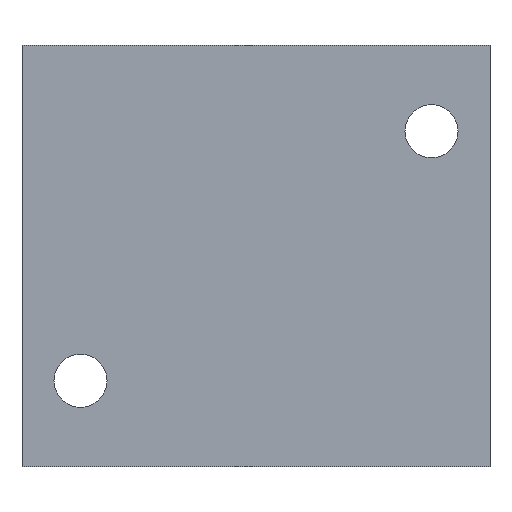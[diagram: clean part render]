
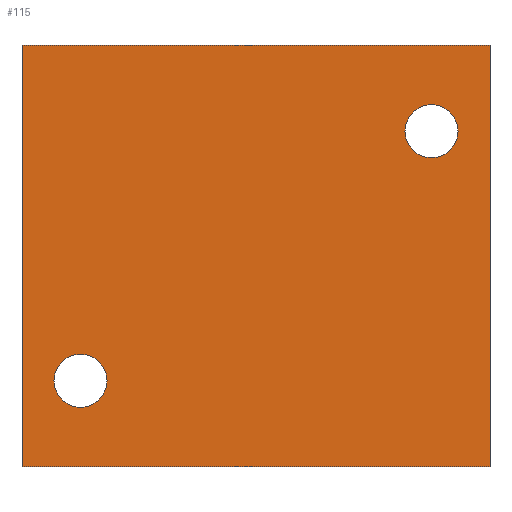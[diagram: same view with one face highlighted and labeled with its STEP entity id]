
A CAD part, front view. The second image highlights one B-rep face of the part: STEP entity #115.
In plain terms, the highlighted planar face has unit normal (0, -1, 0).
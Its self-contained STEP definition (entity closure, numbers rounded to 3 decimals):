
#28 = CARTESIAN_POINT ( 'NONE',  ( 22.5, -21., 19.4 ) ) ;
#40 = EDGE_LOOP ( 'NONE', ( #995, #718 ) ) ;
#46 = DIRECTION ( 'NONE',  ( 0., 0., -1. ) ) ;
#70 = EDGE_CURVE ( 'NONE', #942, #915, #616, .T. ) ;
#92 = ORIENTED_EDGE ( 'NONE', *, *, #70, .T. ) ;
#115 = ADVANCED_FACE ( 'NONE', ( #735, #1123, #485 ), #1452, .F. ) ;
#123 = CARTESIAN_POINT ( 'NONE',  ( -30., -21., 27. ) ) ;
#140 = CARTESIAN_POINT ( 'NONE',  ( 22.5, -21., 16. ) ) ;
#144 = EDGE_CURVE ( 'NONE', #915, #1549, #1399, .T. ) ;
#165 = EDGE_CURVE ( 'NONE', #983, #1301, #472, .T. ) ;
#176 = DIRECTION ( 'NONE',  ( 1., 0., 0. ) ) ;
#180 = VECTOR ( 'NONE', #176, 1000. ) ;
#188 = VECTOR ( 'NONE', #1275, 1000. ) ;
#220 = CARTESIAN_POINT ( 'NONE',  ( -22.5, -21., -16. ) ) ;
#270 = EDGE_CURVE ( 'NONE', #942, #1350, #455, .T. ) ;
#309 = DIRECTION ( 'NONE',  ( 0., 0., -1. ) ) ;
#363 = CARTESIAN_POINT ( 'NONE',  ( -30., -21., 27. ) ) ;
#381 = DIRECTION ( 'NONE',  ( 0., 0., -1. ) ) ;
#394 = CARTESIAN_POINT ( 'NONE',  ( -30., -21., -27. ) ) ;
#426 = ORIENTED_EDGE ( 'NONE', *, *, #144, .T. ) ;
#455 = LINE ( 'NONE', #1299, #921 ) ;
#472 = CIRCLE ( 'NONE', #1565, 3.4 ) ;
#485 = FACE_OUTER_BOUND ( 'NONE', #945, .T. ) ;
#524 = CARTESIAN_POINT ( 'NONE',  ( 30., -21., -27. ) ) ;
#539 = AXIS2_PLACEMENT_3D ( 'NONE', #220, #1171, #1425 ) ;
#546 = VERTEX_POINT ( 'NONE', #681 ) ;
#606 = EDGE_CURVE ( 'NONE', #659, #546, #1564, .T. ) ;
#616 = LINE ( 'NONE', #363, #956 ) ;
#638 = DIRECTION ( 'NONE',  ( 0., -1., 0. ) ) ;
#659 = VERTEX_POINT ( 'NONE', #1081 ) ;
#681 = CARTESIAN_POINT ( 'NONE',  ( -22.5, -21., -19.4 ) ) ;
#687 = CARTESIAN_POINT ( 'NONE',  ( 30., -21., 27. ) ) ;
#710 = EDGE_LOOP ( 'NONE', ( #1243, #1206 ) ) ;
#718 = ORIENTED_EDGE ( 'NONE', *, *, #606, .F. ) ;
#731 = DIRECTION ( 'NONE',  ( 0., 0., 1. ) ) ;
#735 = FACE_BOUND ( 'NONE', #710, .T. ) ;
#756 = EDGE_CURVE ( 'NONE', #1350, #1549, #816, .T. ) ;
#816 = LINE ( 'NONE', #687, #188 ) ;
#833 = DIRECTION ( 'NONE',  ( 0., -1., 0. ) ) ;
#847 = CARTESIAN_POINT ( 'NONE',  ( -30., -21., 27. ) ) ;
#869 = AXIS2_PLACEMENT_3D ( 'NONE', #140, #1487, #46 ) ;
#910 = CARTESIAN_POINT ( 'NONE',  ( 22.5, -21., 16. ) ) ;
#915 = VERTEX_POINT ( 'NONE', #1197 ) ;
#921 = VECTOR ( 'NONE', #1050, 1000. ) ;
#942 = VERTEX_POINT ( 'NONE', #123 ) ;
#945 = EDGE_LOOP ( 'NONE', ( #426, #1218, #1134, #92 ) ) ;
#956 = VECTOR ( 'NONE', #381, 1000. ) ;
#968 = CARTESIAN_POINT ( 'NONE',  ( 22.5, -21., 12.6 ) ) ;
#977 = AXIS2_PLACEMENT_3D ( 'NONE', #1179, #833, #1541 ) ;
#983 = VERTEX_POINT ( 'NONE', #968 ) ;
#995 = ORIENTED_EDGE ( 'NONE', *, *, #1259, .F. ) ;
#1050 = DIRECTION ( 'NONE',  ( 1., 0., 0. ) ) ;
#1081 = CARTESIAN_POINT ( 'NONE',  ( -22.5, -21., -12.6 ) ) ;
#1083 = AXIS2_PLACEMENT_3D ( 'NONE', #847, #1334, #731 ) ;
#1123 = FACE_BOUND ( 'NONE', #40, .T. ) ;
#1134 = ORIENTED_EDGE ( 'NONE', *, *, #270, .F. ) ;
#1171 = DIRECTION ( 'NONE',  ( 0., -1., 0. ) ) ;
#1179 = CARTESIAN_POINT ( 'NONE',  ( -22.5, -21., -16. ) ) ;
#1197 = CARTESIAN_POINT ( 'NONE',  ( -30., -21., -27. ) ) ;
#1206 = ORIENTED_EDGE ( 'NONE', *, *, #1554, .F. ) ;
#1218 = ORIENTED_EDGE ( 'NONE', *, *, #756, .F. ) ;
#1220 = CARTESIAN_POINT ( 'NONE',  ( 30., -21., 27. ) ) ;
#1232 = CIRCLE ( 'NONE', #539, 3.4 ) ;
#1243 = ORIENTED_EDGE ( 'NONE', *, *, #165, .F. ) ;
#1259 = EDGE_CURVE ( 'NONE', #546, #659, #1232, .T. ) ;
#1275 = DIRECTION ( 'NONE',  ( 0., 0., -1. ) ) ;
#1299 = CARTESIAN_POINT ( 'NONE',  ( -30., -21., 27. ) ) ;
#1301 = VERTEX_POINT ( 'NONE', #28 ) ;
#1334 = DIRECTION ( 'NONE',  ( 0., 1., 0. ) ) ;
#1350 = VERTEX_POINT ( 'NONE', #1220 ) ;
#1399 = LINE ( 'NONE', #394, #180 ) ;
#1425 = DIRECTION ( 'NONE',  ( 0., 0., -1. ) ) ;
#1452 = PLANE ( 'NONE',  #1083 ) ;
#1487 = DIRECTION ( 'NONE',  ( 0., -1., 0. ) ) ;
#1541 = DIRECTION ( 'NONE',  ( 0., 0., -1. ) ) ;
#1549 = VERTEX_POINT ( 'NONE', #524 ) ;
#1554 = EDGE_CURVE ( 'NONE', #1301, #983, #1560, .T. ) ;
#1560 = CIRCLE ( 'NONE', #869, 3.4 ) ;
#1564 = CIRCLE ( 'NONE', #977, 3.4 ) ;
#1565 = AXIS2_PLACEMENT_3D ( 'NONE', #910, #638, #309 ) ;
